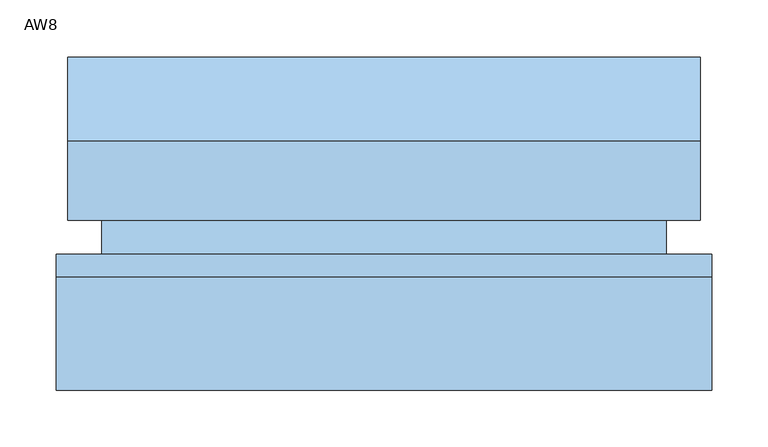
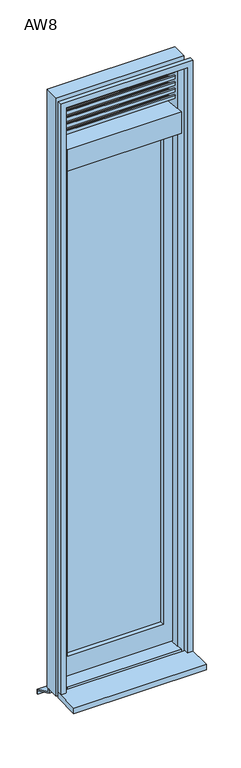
"""IFC4 building model written with IfcOpenShell, lengths in millimetres: window geometry, 営_段窓_FIX/ガラリ : AW8."""

from ifc_helpers import new_model, si_unit, frame, origin, place, context, project, spatial, polyline, outline, extrude, source, transform, mapped, element, save


def aw8_bb0577f5(model_context):
    return source(origin(), model_context, "Body", "SweptSolid", [
        extrude(outline(polyline([(70.0, 2623.2493654), (70.0, 2605.0), (65.0, 2605.0), (65.0, 2620.0), (20.0, 2640.0), (20.0, 2655.0), (25.0, 2655.0), (25.0, 2643.2493654), (70.0, 2623.2493654)])), frame((-250.0, 0.0, 0.0), z_axis=(1.0, 0.0, 0.0), x_axis=(0.0, 1.0, 0.0)), (0.0, 0.0, 1.0), 500.0),
        extrude(outline(polyline([(70.0, 2593.2493654), (70.0, 2575.0), (65.0, 2575.0), (65.0, 2590.0), (20.0, 2610.0), (20.0, 2625.0), (25.0, 2625.0), (25.0, 2613.2493654), (70.0, 2593.2493654)])), frame((-250.0, 0.0, 0.0), z_axis=(1.0, 0.0, 0.0), x_axis=(0.0, 1.0, 0.0)), (0.0, 0.0, 1.0), 500.0),
        extrude(outline(polyline([(70.0, 2563.2493654), (70.0, 2545.0), (65.0, 2545.0), (65.0, 2560.0), (20.0, 2580.0), (20.0, 2595.0), (25.0, 2595.0), (25.0, 2583.2493654), (70.0, 2563.2493654)])), frame((-250.0, 0.0, 0.0), z_axis=(1.0, 0.0, 0.0), x_axis=(0.0, 1.0, 0.0)), (0.0, 0.0, 1.0), 500.0),
        extrude(outline(polyline([(70.0, 2533.2493654), (70.0, 2515.0), (65.0, 2515.0), (65.0, 2530.0), (20.0, 2550.0), (20.0, 2565.0), (25.0, 2565.0), (25.0, 2553.2493654), (70.0, 2533.2493654)])), frame((-250.0, 0.0, 0.0), z_axis=(1.0, 0.0, 0.0), x_axis=(0.0, 1.0, 0.0)), (0.0, 0.0, 1.0), 500.0),
        extrude(outline(polyline([(70.0, 2653.2493654), (70.0, 2635.0), (65.0, 2635.0), (65.0, 2650.0), (20.0, 2670.0), (20.0, 2685.0), (25.0, 2685.0), (25.0, 2673.2493654), (70.0, 2653.2493654)])), frame((-250.0, 0.0, 0.0), z_axis=(1.0, 0.0, 0.0), x_axis=(0.0, 1.0, 0.0)), (0.0, 0.0, 1.0), 500.0),
        extrude(outline(polyline([(70.0, 2503.2493654), (70.0, 2485.0), (65.0, 2485.0), (65.0, 2500.0), (20.0, 2520.0), (20.0, 2535.0), (25.0, 2535.0), (25.0, 2523.2493654), (70.0, 2503.2493654)])), frame((-250.0, 0.0, 0.0), z_axis=(1.0, 0.0, 0.0), x_axis=(0.0, 1.0, 0.0)), (0.0, 0.0, 1.0), 500.0),
        extrude(outline(polyline([(0.0, 250.0), (2385.0, 250.0), (2385.0, -250.0), (0.0, -250.0), (0.0, 250.0)]), holes=[polyline([(90.0, 210.0), (90.0, -210.0), (2345.0, -210.0), (2345.0, 210.0), (90.0, 210.0)])]), frame((0.0, 40.0, 0.0), z_axis=(0.0, 1.0, 0.0), x_axis=(0.0, 0.0, 1.0)), (0.0, 0.0, 1.0), 30.0),
        extrude(outline(polyline([(210.0, 60.0), (-210.0, 60.0), (-210.0, 65.0), (210.0, 65.0), (210.0, 60.0)])), frame((0.0, 0.0, 90.0), z_axis=(0.0, 0.0, 1.0), x_axis=(1.0, 0.0, 0.0)), (0.0, 0.0, 1.0), 2255.0),
        extrude(outline(polyline([(290.0, -145.0), (-290.0, -145.0), (-290.0, -25.0), (290.0, -25.0), (290.0, -145.0)])), frame((0.0, 0.0, -35.0), z_axis=(0.0, 0.0, 1.0), x_axis=(1.0, 0.0, 0.0)), (0.0, 0.0, 1.0), 25.0),
        extrude(outline(polyline([(65.0, -65.0), (150.0, -105.0), (150.0, -125.0), (145.0014518, -125.0), (145.0014518, -108.1737109), (60.0, -68.1730277), (60.0, -50.0), (65.0, -50.0), (65.0, -65.0)])), frame((-280.0, 0.0, 0.0), z_axis=(1.0, 0.0, 0.0), x_axis=(0.0, 1.0, 0.0)), (0.0, 0.0, 1.0), 560.0),
        extrude(outline(polyline([(-35.0, -290.0), (-35.0, -265.0), (2695.0, -265.0), (2695.0, 265.0), (-35.0, 265.0), (-35.0, 290.0), (2720.0, 290.0), (2720.0, -290.0), (-35.0, -290.0)])), frame((0.0, -45.0, 0.0), z_axis=(0.0, 1.0, 0.0), x_axis=(0.0, 0.0, 1.0)), (0.0, 0.0, 1.0), 20.0),
        extrude(outline(polyline([(-50.0, -280.0), (-50.0, -250.0), (2685.0, -250.0), (2685.0, 250.0), (-50.0, 250.0), (-50.0, 280.0), (2715.0, 280.0), (2715.0, -280.0), (-50.0, -280.0)])), frame((0.0, 5.0, 0.0), z_axis=(0.0, 1.0, 0.0), x_axis=(0.0, 0.0, 1.0)), (0.0, 0.0, 1.0), 70.0),
        extrude(outline(polyline([(-25.0, -50.0), (-25.0, 0.0), (75.0, -9.3333333), (75.0, -50.0), (-25.0, -50.0)])), frame((-250.0, 0.0, 0.0), z_axis=(1.0, 0.0, 0.0), x_axis=(0.0, 1.0, 0.0)), (0.0, 0.0, 1.0), 500.0),
        extrude(outline(polyline([(75.0, 2385.0), (-25.0, 2385.0), (-25.0, 2485.0), (75.0, 2475.0), (75.0, 2385.0)])), frame((-250.0, 0.0, 0.0), z_axis=(1.0, 0.0, 0.0), x_axis=(0.0, 1.0, 0.0)), (0.0, 0.0, 1.0), 500.0),
    ])


if __name__ == "__main__":
    model = new_model("IFC4")
    model_context = context("Model", 3, world=origin())
    ifc_project = project(units=[si_unit("LENGTHUNIT", "METRE", prefix="MILLI")], contexts=[model_context])
    site = spatial("IfcSite", under=ifc_project)
    building = spatial("IfcBuilding", under=site)
    placement = place(None, origin())
    aw8_shape = aw8_bb0577f5(model_context)
    element("IfcWindow", 1, ObjectType="営_段窓_FIX/ガラリ : AW8", at=placement, inside=building, context=model_context, shape_type="MappedRepresentation", body=[
        mapped(aw8_shape, transform((0.0, 0.0, 0.0), x_axis=(1.0, 0.0, 0.0), y_axis=(0.0, 1.0, 0.0), z_axis=(0.0, 0.0, 1.0))),
    ])
    save(model, "model.ifc")
